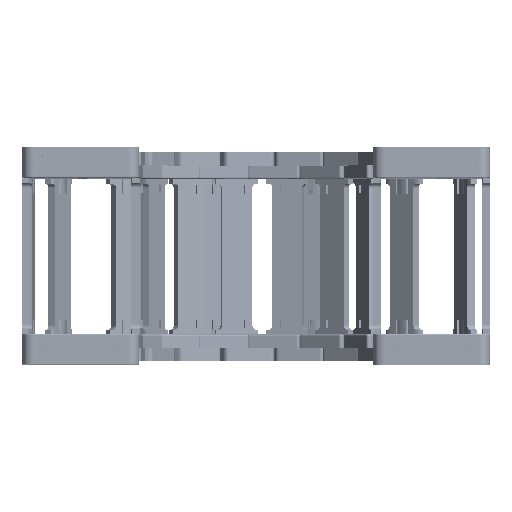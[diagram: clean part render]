
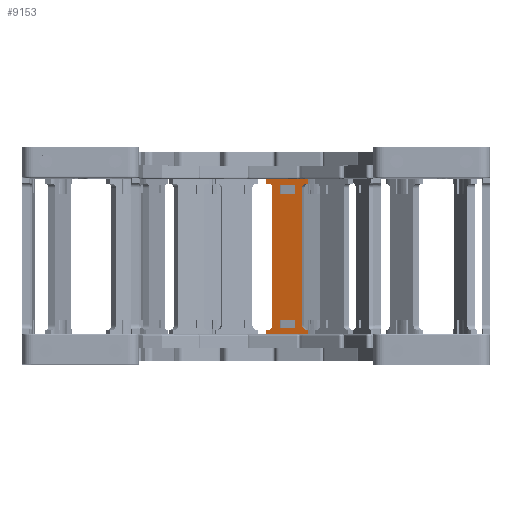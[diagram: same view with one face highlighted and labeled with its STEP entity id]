
A CAD part, top view. The second image highlights one B-rep face of the part: STEP entity #9153.
In plain terms, the highlighted planar face has unit normal (-0.259, 0, 0.966) as drawn and (0, -1, 0) by its records, which use the part's own axes.
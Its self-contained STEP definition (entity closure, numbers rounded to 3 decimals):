
#8346=DIRECTION('',(0.,0.,-1.));
#8347=VECTOR('',#8346,28.);
#8348=CARTESIAN_POINT('',(-19.5,0.,14.));
#8349=LINE('',#8348,#8347);
#8375=DIRECTION('',(1.,0.,0.));
#8376=VECTOR('',#8375,5.5);
#8377=CARTESIAN_POINT('',(-15.5,0.,5.15));
#8378=LINE('',#8377,#8376);
#8379=DIRECTION('',(0.,0.,-1.));
#8380=VECTOR('',#8379,10.3);
#8381=CARTESIAN_POINT('',(-10.,0.,5.15));
#8382=LINE('',#8381,#8380);
#8395=DIRECTION('',(-1.,0.,0.));
#8396=VECTOR('',#8395,5.5);
#8397=CARTESIAN_POINT('',(-10.,0.,-5.15));
#8398=LINE('',#8397,#8396);
#8427=DIRECTION('',(0.,0.,1.));
#8428=VECTOR('',#8427,10.3);
#8429=CARTESIAN_POINT('',(72.,0.,-5.15));
#8430=LINE('',#8429,#8428);
#8443=DIRECTION('',(1.,0.,0.));
#8444=VECTOR('',#8443,5.5);
#8445=CARTESIAN_POINT('',(72.,0.,5.15));
#8446=LINE('',#8445,#8444);
#8456=DIRECTION('',(0.,0.,1.));
#8457=VECTOR('',#8456,28.);
#8458=CARTESIAN_POINT('',(81.5,0.,-14.));
#8459=LINE('',#8458,#8457);
#8485=DIRECTION('',(-1.,0.,0.));
#8486=VECTOR('',#8485,5.5);
#8487=CARTESIAN_POINT('',(77.5,0.,-5.15));
#8488=LINE('',#8487,#8486);
#8501=DIRECTION('',(0.,0.,-1.));
#8502=VECTOR('',#8501,10.3);
#8503=CARTESIAN_POINT('',(-15.5,0.,5.15));
#8504=LINE('',#8503,#8502);
#8505=DIRECTION('',(0.,0.,1.));
#8506=VECTOR('',#8505,10.3);
#8507=CARTESIAN_POINT('',(77.5,0.,-5.15));
#8508=LINE('',#8507,#8506);
#8509=CARTESIAN_POINT('',(75.5,0.,13.));
#8510=DIRECTION('',(0.,-1.,0.));
#8511=DIRECTION('',(0.,0.,-1.));
#8512=AXIS2_PLACEMENT_3D('',#8509,#8510,#8511);
#8514=CARTESIAN_POINT('',(75.5,0.,-13.));
#8515=DIRECTION('',(0.,-1.,0.));
#8516=DIRECTION('',(1.,0.,0.));
#8517=AXIS2_PLACEMENT_3D('',#8514,#8515,#8516);
#8539=DIRECTION('',(0.,0.,1.));
#8540=VECTOR('',#8539,1.);
#8541=CARTESIAN_POINT('',(-16.5,0.,13.));
#8542=LINE('',#8541,#8540);
#8552=CARTESIAN_POINT('',(-13.5,0.,13.));
#8553=DIRECTION('',(0.,1.,0.));
#8554=DIRECTION('',(0.,0.,-1.));
#8555=AXIS2_PLACEMENT_3D('',#8552,#8553,#8554);
#8586=DIRECTION('',(-1.,0.,0.));
#8587=VECTOR('',#8586,89.);
#8588=CARTESIAN_POINT('',(75.5,0.,10.));
#8589=LINE('',#8588,#8587);
#8602=DIRECTION('',(-1.,0.,0.));
#8603=VECTOR('',#8602,3.);
#8604=CARTESIAN_POINT('',(-16.5,0.,14.));
#8605=LINE('',#8604,#8603);
#8610=DIRECTION('',(-1.,0.,0.));
#8611=VECTOR('',#8610,3.);
#8612=CARTESIAN_POINT('',(81.5,0.,14.));
#8613=LINE('',#8612,#8611);
#8623=DIRECTION('',(0.,0.,-1.));
#8624=VECTOR('',#8623,1.);
#8625=CARTESIAN_POINT('',(78.5,0.,14.));
#8626=LINE('',#8625,#8624);
#8656=DIRECTION('',(1.,0.,0.));
#8657=VECTOR('',#8656,3.);
#8658=CARTESIAN_POINT('',(78.5,0.,-14.));
#8659=LINE('',#8658,#8657);
#8685=DIRECTION('',(0.,0.,1.));
#8686=VECTOR('',#8685,1.);
#8687=CARTESIAN_POINT('',(-16.5,0.,-14.));
#8688=LINE('',#8687,#8686);
#8710=CARTESIAN_POINT('',(-13.5,0.,-13.));
#8711=DIRECTION('',(0.,1.,0.));
#8712=DIRECTION('',(-1.,0.,0.));
#8713=AXIS2_PLACEMENT_3D('',#8710,#8711,#8712);
#8719=DIRECTION('',(1.,0.,0.));
#8720=VECTOR('',#8719,89.);
#8721=CARTESIAN_POINT('',(-13.5,0.,-10.));
#8722=LINE('',#8721,#8720);
#8761=DIRECTION('',(0.,0.,-1.));
#8762=VECTOR('',#8761,1.);
#8763=CARTESIAN_POINT('',(78.5,0.,-13.));
#8764=LINE('',#8763,#8762);
#8769=DIRECTION('',(1.,0.,0.));
#8770=VECTOR('',#8769,3.);
#8771=CARTESIAN_POINT('',(-19.5,0.,-14.));
#8772=LINE('',#8771,#8770);
#8802=CARTESIAN_POINT('',(81.5,0.,-14.));
#8803=VERTEX_POINT('',#8802);
#8804=CARTESIAN_POINT('',(81.5,0.,14.));
#8805=VERTEX_POINT('',#8804);
#8806=CARTESIAN_POINT('',(72.,0.,-5.15));
#8807=CARTESIAN_POINT('',(72.,0.,5.15));
#8808=VERTEX_POINT('',#8806);
#8809=VERTEX_POINT('',#8807);
#8812=CARTESIAN_POINT('',(77.5,0.,-5.15));
#8813=VERTEX_POINT('',#8812);
#8816=CARTESIAN_POINT('',(77.5,0.,5.15));
#8817=VERTEX_POINT('',#8816);
#8818=CARTESIAN_POINT('',(75.5,0.,10.));
#8819=CARTESIAN_POINT('',(78.5,0.,13.));
#8820=VERTEX_POINT('',#8818);
#8821=VERTEX_POINT('',#8819);
#8822=CARTESIAN_POINT('',(78.5,0.,14.));
#8823=VERTEX_POINT('',#8822);
#8824=CARTESIAN_POINT('',(78.5,0.,-14.));
#8825=VERTEX_POINT('',#8824);
#8826=CARTESIAN_POINT('',(78.5,0.,-13.));
#8827=VERTEX_POINT('',#8826);
#8828=CARTESIAN_POINT('',(75.5,0.,-10.));
#8829=VERTEX_POINT('',#8828);
#8843=CARTESIAN_POINT('',(-19.5,0.,-14.));
#8844=CARTESIAN_POINT('',(-16.5,0.,-14.));
#8845=VERTEX_POINT('',#8843);
#8846=VERTEX_POINT('',#8844);
#8847=CARTESIAN_POINT('',(-19.5,0.,14.));
#8848=VERTEX_POINT('',#8847);
#8849=CARTESIAN_POINT('',(-16.5,0.,14.));
#8850=VERTEX_POINT('',#8849);
#8851=CARTESIAN_POINT('',(-15.5,0.,5.15));
#8852=CARTESIAN_POINT('',(-15.5,0.,-5.15));
#8853=VERTEX_POINT('',#8851);
#8854=VERTEX_POINT('',#8852);
#8855=CARTESIAN_POINT('',(-10.,0.,-5.15));
#8856=VERTEX_POINT('',#8855);
#8857=CARTESIAN_POINT('',(-10.,0.,5.15));
#8858=VERTEX_POINT('',#8857);
#8863=CARTESIAN_POINT('',(-13.5,0.,-10.));
#8865=VERTEX_POINT('',#8863);
#8867=CARTESIAN_POINT('',(-16.5,0.,-13.));
#8869=VERTEX_POINT('',#8867);
#8872=CARTESIAN_POINT('',(-13.5,0.,10.));
#8874=VERTEX_POINT('',#8872);
#8876=CARTESIAN_POINT('',(-16.5,0.,13.));
#8878=VERTEX_POINT('',#8876);
#9103=CARTESIAN_POINT('',(62.,0.,0.));
#9104=DIRECTION('',(0.,1.,0.));
#9105=DIRECTION('',(1.,0.,0.));
#9106=AXIS2_PLACEMENT_3D('',#9103,#9104,#9105);
#9107=PLANE('',#9106);
#9109=ORIENTED_EDGE('',*,*,#9108,.F.);
#9111=ORIENTED_EDGE('',*,*,#9110,.F.);
#9113=ORIENTED_EDGE('',*,*,#9112,.F.);
#9115=ORIENTED_EDGE('',*,*,#9114,.T.);
#9117=ORIENTED_EDGE('',*,*,#9116,.F.);
#9119=ORIENTED_EDGE('',*,*,#9118,.F.);
#9120=ORIENTED_EDGE('',*,*,#9047,.F.);
#9122=ORIENTED_EDGE('',*,*,#9121,.F.);
#9124=ORIENTED_EDGE('',*,*,#9123,.F.);
#9126=ORIENTED_EDGE('',*,*,#9125,.T.);
#9128=ORIENTED_EDGE('',*,*,#9127,.F.);
#9130=ORIENTED_EDGE('',*,*,#9129,.F.);
#9132=ORIENTED_EDGE('',*,*,#9131,.F.);
#9134=ORIENTED_EDGE('',*,*,#9133,.F.);
#9135=ORIENTED_EDGE('',*,*,#8908,.F.);
#9137=ORIENTED_EDGE('',*,*,#9136,.F.);
#9138=EDGE_LOOP('',(#9109,#9111,#9113,#9115,#9117,#9119,#9120,#9122,#9124,#9126,
#9128,#9130,#9132,#9134,#9135,#9137));
#9139=FACE_OUTER_BOUND('',#9138,.F.);
#9140=ORIENTED_EDGE('',*,*,#9097,.T.);
#9141=ORIENTED_EDGE('',*,*,#9026,.F.);
#9142=ORIENTED_EDGE('',*,*,#9012,.F.);
#9143=ORIENTED_EDGE('',*,*,#9072,.F.);
#9144=EDGE_LOOP('',(#9140,#9141,#9142,#9143));
#9145=FACE_BOUND('',#9144,.F.);
#9147=ORIENTED_EDGE('',*,*,#9146,.T.);
#9148=ORIENTED_EDGE('',*,*,#8966,.F.);
#9149=ORIENTED_EDGE('',*,*,#8952,.F.);
#9150=ORIENTED_EDGE('',*,*,#8937,.F.);
#9151=EDGE_LOOP('',(#9147,#9148,#9149,#9150));
#9152=FACE_BOUND('',#9151,.F.);
#9153=ADVANCED_FACE('',(#9139,#9145,#9152),#9107,.F.);
#8513=CIRCLE('',#8512,3.);
#8518=CIRCLE('',#8517,3.);
#8556=CIRCLE('',#8555,3.);
#8714=CIRCLE('',#8713,3.);
#8908=EDGE_CURVE('',#8848,#8845,#8349,.T.);
#8937=EDGE_CURVE('',#8853,#8858,#8378,.T.);
#8952=EDGE_CURVE('',#8858,#8856,#8382,.T.);
#8966=EDGE_CURVE('',#8856,#8854,#8398,.T.);
#9012=EDGE_CURVE('',#8808,#8809,#8430,.T.);
#9026=EDGE_CURVE('',#8809,#8817,#8446,.T.);
#9047=EDGE_CURVE('',#8803,#8805,#8459,.T.);
#9072=EDGE_CURVE('',#8813,#8808,#8488,.T.);
#9097=EDGE_CURVE('',#8813,#8817,#8508,.T.);
#9108=EDGE_CURVE('',#8878,#8850,#8542,.T.);
#9110=EDGE_CURVE('',#8874,#8878,#8556,.T.);
#9112=EDGE_CURVE('',#8820,#8874,#8589,.T.);
#9114=EDGE_CURVE('',#8820,#8821,#8513,.T.);
#9116=EDGE_CURVE('',#8823,#8821,#8626,.T.);
#9118=EDGE_CURVE('',#8805,#8823,#8613,.T.);
#9121=EDGE_CURVE('',#8825,#8803,#8659,.T.);
#9123=EDGE_CURVE('',#8827,#8825,#8764,.T.);
#9125=EDGE_CURVE('',#8827,#8829,#8518,.T.);
#9127=EDGE_CURVE('',#8865,#8829,#8722,.T.);
#9129=EDGE_CURVE('',#8869,#8865,#8714,.T.);
#9131=EDGE_CURVE('',#8846,#8869,#8688,.T.);
#9133=EDGE_CURVE('',#8845,#8846,#8772,.T.);
#9136=EDGE_CURVE('',#8850,#8848,#8605,.T.);
#9146=EDGE_CURVE('',#8853,#8854,#8504,.T.);
